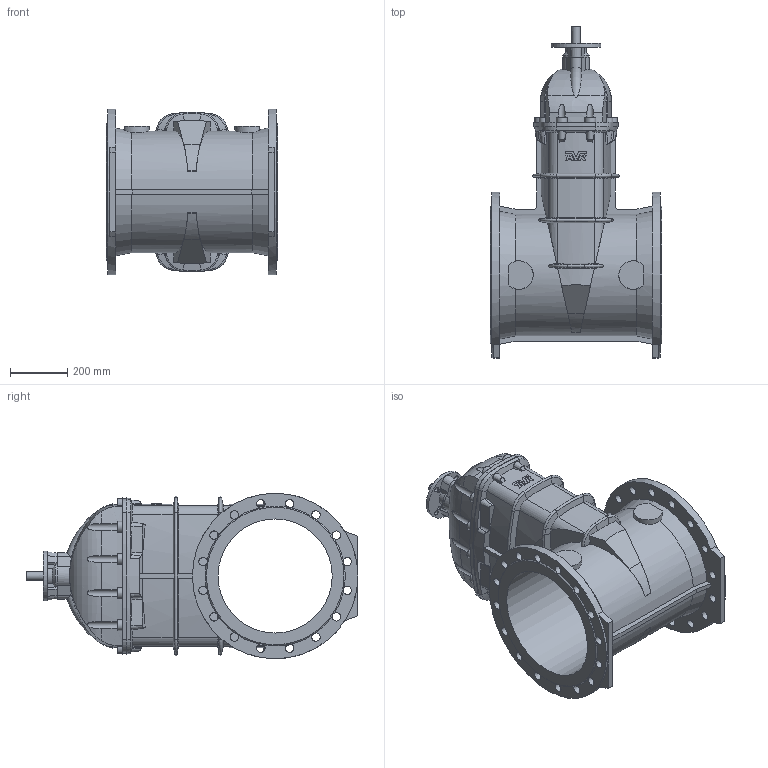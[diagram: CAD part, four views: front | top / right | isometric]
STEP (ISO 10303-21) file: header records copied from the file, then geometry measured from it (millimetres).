
FILE_DESCRIPTION (( 'STEP AP203' ), '1' );
FILE_NAME ('O_15_72_DN400_00_step.STEP', '2015-06-11T07:09:00', ( '' ), ( '' ), 'SwSTEP 2.0', 'SolidWorks 2012', '' );
FILE_SCHEMA (( 'CONFIG_CONTROL_DESIGN' ));
Length unit declared in the file: millimetre
Products named in the file (1): O_15_72_DN400_00_step
Bounding box: 600 x 1163 x 580 mm (x, y, z)
Volume: 79653559.4 mm3; surface area: 3207093.3 mm2
Topology: 1 solids, 1 shells, 466 faces, 1362 edges, 875 vertices
Faces by surface type: plane 163, cylinder 156, cone 101, torus 30, bspline 16
Full cylindrical faces by diameter (mm): 12 x4, 18 x4, 29.5 x32, 30 x1, 175 x1, 400 x1, 580 x2
Entity records: 18400 total; most frequent: CARTESIAN_POINT 6881, ORIENTED_EDGE 2540, DIRECTION 2236, EDGE_CURVE 1270, AXIS2_PLACEMENT_3D 896, VERTEX_POINT 831, EDGE_LOOP 573, FACE_OUTER_BOUND 511
